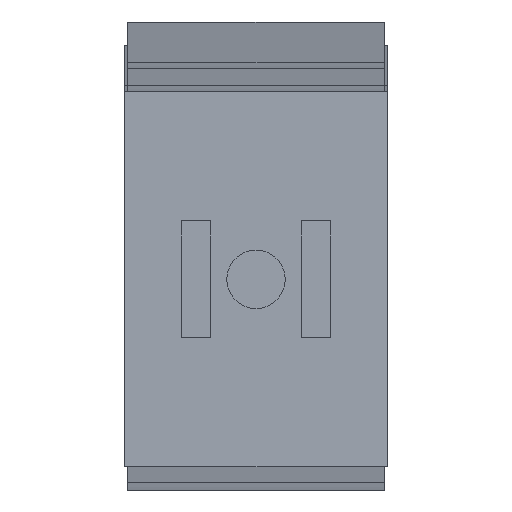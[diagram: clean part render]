
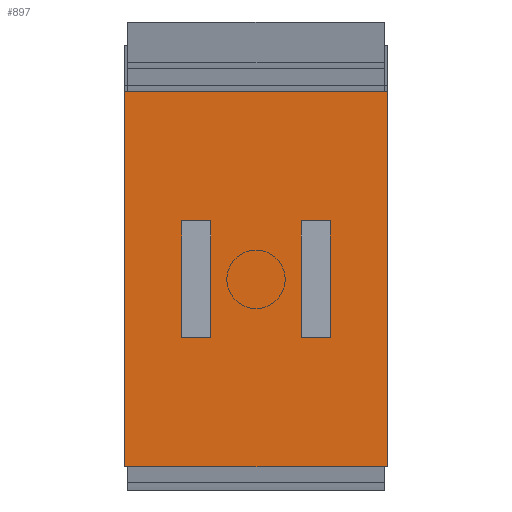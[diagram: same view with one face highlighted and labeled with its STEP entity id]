
A CAD part, left-side view. The second image highlights one B-rep face of the part: STEP entity #897.
In plain terms, the highlighted planar face has unit normal (-1, 0, 0).
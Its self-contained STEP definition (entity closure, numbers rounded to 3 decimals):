
#87=FACE_OUTER_BOUND('',#139,.T.);
#139=EDGE_LOOP('',(#656,#657,#658,#659));
#192=LINE('',#1317,#302);
#196=LINE('',#1323,#306);
#198=LINE('',#1327,#308);
#201=LINE('',#1331,#311);
#302=VECTOR('',#1063,10.);
#306=VECTOR('',#1069,10.);
#308=VECTOR('',#1073,10.);
#311=VECTOR('',#1078,10.);
#414=VERTEX_POINT('',#1315);
#415=VERTEX_POINT('',#1316);
#416=VERTEX_POINT('',#1322);
#417=VERTEX_POINT('',#1326);
#500=EDGE_CURVE('',#414,#415,#192,.T.);
#504=EDGE_CURVE('',#415,#416,#196,.T.);
#506=EDGE_CURVE('',#416,#417,#198,.T.);
#509=EDGE_CURVE('',#417,#414,#201,.T.);
#656=ORIENTED_EDGE('',*,*,#509,.T.);
#657=ORIENTED_EDGE('',*,*,#500,.T.);
#658=ORIENTED_EDGE('',*,*,#504,.T.);
#659=ORIENTED_EDGE('',*,*,#506,.T.);
#851=PLANE('',#977);
#897=ADVANCED_FACE('',(#87),#851,.F.);
#977=AXIS2_PLACEMENT_3D('',#1333,#1081,#1082);
#1063=DIRECTION('',(0.,0.,-1.));
#1069=DIRECTION('',(0.,-1.,0.));
#1073=DIRECTION('',(0.,0.,1.));
#1078=DIRECTION('',(0.,1.,0.));
#1081=DIRECTION('center_axis',(1.,0.,0.));
#1082=DIRECTION('ref_axis',(0.,0.,-1.));
#1315=CARTESIAN_POINT('',(0.,22.5,32.1));
#1316=CARTESIAN_POINT('',(0.,22.5,-32.1));
#1317=CARTESIAN_POINT('',(0.,22.5,32.1));
#1322=CARTESIAN_POINT('',(0.,-22.5,-32.1));
#1323=CARTESIAN_POINT('',(0.,22.5,-32.1));
#1326=CARTESIAN_POINT('',(0.,-22.5,32.1));
#1327=CARTESIAN_POINT('',(0.,-22.5,-32.1));
#1331=CARTESIAN_POINT('',(0.,-22.5,32.1));
#1333=CARTESIAN_POINT('Origin',(0.,0.,0.));
